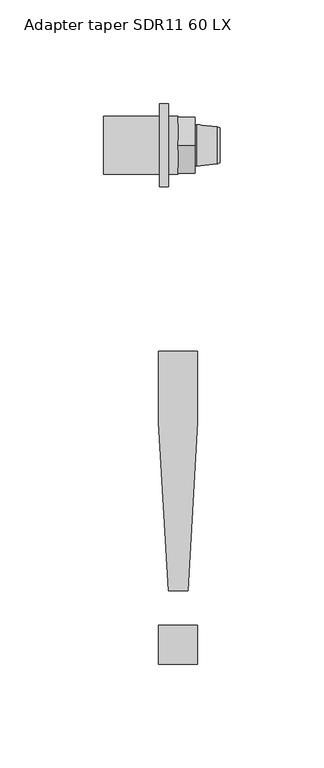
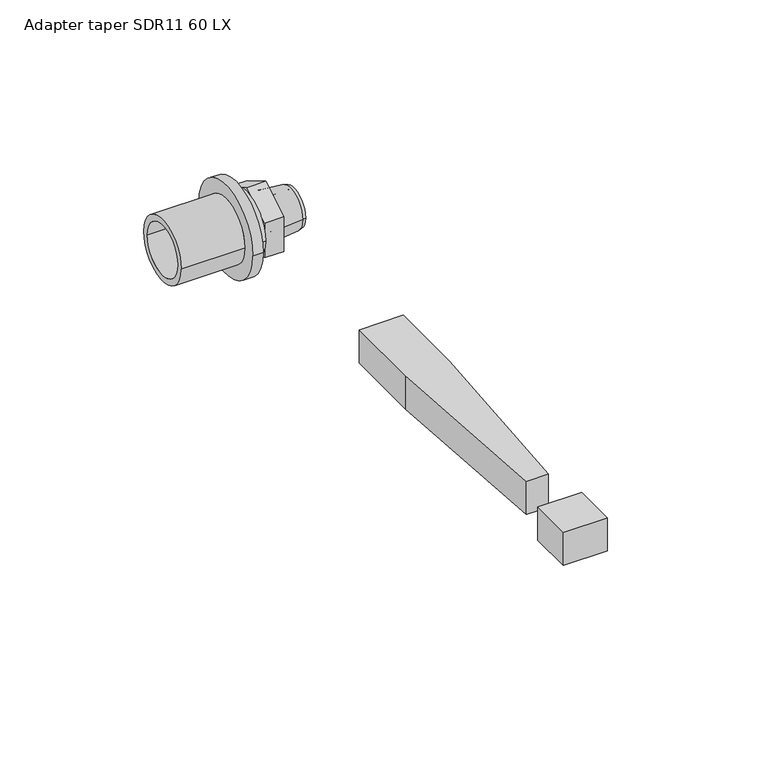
"""IFC4 building model written with IfcOpenShell, lengths in millimetres: pipe fitting geometry, Adapter taper SDR11 LX 60 Grad : Adapter taper SDR11 60 LX."""

from ifc_helpers import new_model, si_unit, frame, origin, origin_with_axes, place, context, project, spatial, polyline, circle_curve, outline, extrude, source, transform, mapped, element, save
from ifc_brep_helpers import plane_surface, cylinder_surface, revolved_surface, advanced_brep


def adapter_taper_sdr11_60_lx_09cdef62(model_context):
    return source(origin(), model_context, "Body", "SolidModel", [
        extrude(outline(polyline([(-4.7088895, -214.6833285), (-9.4177791, -133.3446193), (-9.4177791, -99.3155348), (9.4177791, -99.3155348), (9.4177791, -133.3446193), (4.7088895, -214.6833285), (-4.7088895, -214.6833285)])), origin_with_axes(), (0.0, 0.0, 1.0), 15.0),
        extrude(outline(polyline([(-9.4177791, -250.0), (-9.4177791, -231.1644418), (9.4177791, -231.1644418), (9.4177791, -250.0), (-9.4177791, -250.0)])), origin_with_axes(), (0.0, 0.0, 1.0), 15.0),
        advanced_brep(
        [(-8.9, 13.95, 0.0), (-8.9, -13.95, 0.0), (-35.9, -13.95, 0.0), (-35.9, 13.95, 0.0), (-4.5, 20.0, 0.0), (-4.5, -20.0, 0.0), (-8.9, -20.0, 0.0), (-8.9, 20.0, 0.0), (0.0, 13.95, 0.0), (0.0, -13.95, 0.0), (-4.5, -13.95, 0.0), (-4.5, 13.95, 0.0), (-35.9, 11.2, 0.0), (-35.9, -11.2, 0.0), (0.0, -11.2, 0.0), (0.0, 11.2, 0.0)],
        [
            (0, 1, circle_curve(frame((-8.9, 0.0, 0.0), z_axis=(-1.0, 0.0, 0.0), x_axis=(0.0, -1.0, 0.0)), 13.95)),
            (1, 2),
            (2, 3, circle_curve(frame((-35.9, 0.0, 0.0), z_axis=(1.0, 0.0, 0.0), x_axis=(0.0, -1.0, 0.0)), 13.95)),
            (3, 0),
            (4, 5, circle_curve(frame((-4.5, 0.0, 0.0), z_axis=(-1.0, 0.0, 0.0), x_axis=(0.0, -1.0, 0.0)), 20.0)),
            (5, 6),
            (6, 7, circle_curve(frame((-8.9, 0.0, 0.0), z_axis=(1.0, 0.0, 0.0), x_axis=(0.0, -1.0, 0.0)), 20.0)),
            (7, 4),
            (8, 9, circle_curve(frame((0.0, 0.0, 0.0), z_axis=(-1.0, 0.0, 0.0), x_axis=(0.0, -1.0, 0.0)), 13.95)),
            (9, 10),
            (10, 11, circle_curve(frame((-4.5, 0.0, 0.0), z_axis=(1.0, 0.0, 0.0), x_axis=(0.0, -1.0, 0.0)), 13.95)),
            (11, 8),
            (12, 13, circle_curve(frame((-35.9, 0.0, 0.0), z_axis=(-1.0, 0.0, 0.0), x_axis=(0.0, -1.0, 0.0)), 11.2)),
            (13, 14),
            (14, 15, circle_curve(frame((0.0, 0.0, 0.0), z_axis=(1.0, 0.0, 0.0), x_axis=(0.0, -1.0, 0.0)), 11.2)),
            (15, 12),
            (2, 3, circle_curve(frame((-35.9, 0.0, 0.0), z_axis=(-1.0, 0.0, 0.0), x_axis=(0.0, 1.0, 0.0)), 13.95)),
            (12, 13, circle_curve(frame((-35.9, 0.0, 0.0), z_axis=(1.0, 0.0, 0.0), x_axis=(0.0, 1.0, 0.0)), 11.2)),
            (1, 0, circle_curve(frame((-8.9, 0.0, 0.0), z_axis=(-1.0, 0.0, 0.0), x_axis=(0.0, 1.0, 0.0)), 13.95)),
            (6, 7, circle_curve(frame((-8.9, 0.0, 0.0), z_axis=(-1.0, 0.0, 0.0), x_axis=(0.0, 1.0, 0.0)), 20.0)),
            (5, 4, circle_curve(frame((-4.5, 0.0, 0.0), z_axis=(-1.0, 0.0, 0.0), x_axis=(0.0, 1.0, 0.0)), 20.0)),
            (10, 11, circle_curve(frame((-4.5, 0.0, 0.0), z_axis=(-1.0, 0.0, 0.0), x_axis=(0.0, 1.0, 0.0)), 13.95)),
            (9, 8, circle_curve(frame((0.0, 0.0, 0.0), z_axis=(-1.0, 0.0, 0.0), x_axis=(0.0, 1.0, 0.0)), 13.95)),
            (14, 15, circle_curve(frame((0.0, 0.0, 0.0), z_axis=(-1.0, 0.0, 0.0), x_axis=(0.0, 1.0, 0.0)), 11.2)),
        ],
        [
            cylinder_surface(frame((0.0, 0.0, 0.0), z_axis=(1.0, 0.0, 0.0), x_axis=(0.0, -1.0, 0.0)), 13.95),
            cylinder_surface(frame((0.0, 0.0, 0.0), z_axis=(1.0, 0.0, 0.0), x_axis=(0.0, -1.0, 0.0)), 20.0),
            revolved_surface(polyline([(0.0, -11.2, 0.0), (-35.9, -11.2, 0.0)]), (0.0, 0.0, 0.0), (1.0, 0.0, 0.0)),
            plane_surface(frame((-35.9, 0.0, 0.0), z_axis=(-1.0, 0.0, 0.0), x_axis=(0.0, 1.0, 0.0))),
            cylinder_surface(frame((0.0, 0.0, 0.0), z_axis=(1.0, 0.0, 0.0), x_axis=(0.0, 1.0, 0.0)), 13.95),
            plane_surface(frame((-8.9, 0.0, 0.0), z_axis=(-1.0, 0.0, 0.0), x_axis=(0.0, 1.0, 0.0))),
            cylinder_surface(frame((0.0, 0.0, 0.0), z_axis=(1.0, 0.0, 0.0), x_axis=(0.0, 1.0, 0.0)), 20.0),
            plane_surface(frame((-4.5, 0.0, 0.0), z_axis=(1.0, 0.0, 0.0), x_axis=(0.0, 1.0, 0.0))),
            plane_surface(frame((0.0, 0.0, 0.0), z_axis=(1.0, 0.0, 0.0), x_axis=(0.0, 1.0, 0.0))),
            revolved_surface(polyline([(0.0, 11.2, 0.0), (-35.9, 11.2, 0.0)]), (0.0, 0.0, 0.0), (1.0, 0.0, 0.0)),
        ],
        [
            (0, [[1, 2, 3, 4]]),
            (1, [[5, 6, 7, 8]]),
            (0, [[9, 10, 11, 12]]),
            (2, [[13, 14, 15, 16]]),
            (3, [[17, -3], [18, -13]]),
            (4, [[19, -4, -17, -2]]),
            (5, [[20, -7], [-19, -1]]),
            (6, [[21, -8, -20, -6]]),
            (7, [[-21, -5], [22, -11]]),
            (4, [[23, -12, -22, -10]]),
            (8, [[-23, -9], [24, -15]]),
            (9, [[-18, -16, -24, -14]]),
        ],
    ),
        advanced_brep(
        [(9.2032803, 6.5, 0.0), (9.2032803, -6.5, 0.0), (20.2, -6.5, 0.0), (20.2, 6.5, 0.0), (8.1, 5.3967197, 0.0), (8.1, -5.3967197, 0.0), (8.8406902, 10.0, 0.0), (8.8406902, -10.0, 0.0), (8.1, -9.5, 0.0), (8.1, 9.5, 0.0), (18.7000007, 9.0, 0.0), (18.7000007, -9.0, 0.0), (20.2, 8.5, 0.0), (20.2, -8.5, 0.0)],
        [
            (0, 1, circle_curve(frame((9.2032803, 0.0, 0.0), z_axis=(-1.0, 0.0, 0.0), x_axis=(0.0, -1.0, 0.0)), 6.5)),
            (1, 2),
            (2, 3, circle_curve(frame((20.2, 0.0, 0.0), z_axis=(1.0, 0.0, 0.0), x_axis=(0.0, -1.0, 0.0)), 6.5)),
            (3, 0),
            (4, 5, circle_curve(frame((8.1, 0.0, 0.0), z_axis=(-1.0, 0.0, 0.0), x_axis=(0.0, -1.0, 0.0)), 5.3967197)),
            (5, 1),
            (0, 4),
            (6, 7, circle_curve(frame((8.8406902, 0.0, 0.0), z_axis=(-1.0, 0.0, 0.0), x_axis=(0.0, -1.0, 0.0)), 10.0)),
            (7, 8),
            (8, 9, circle_curve(frame((8.1, 0.0, 0.0), z_axis=(1.0, 0.0, 0.0), x_axis=(0.0, -1.0, 0.0)), 9.5)),
            (9, 6),
            (10, 11, circle_curve(frame((18.7000007, 0.0, 0.0), z_axis=(-1.0, 0.0, 0.0), x_axis=(0.0, -1.0, 0.0)), 9.0)),
            (11, 7),
            (6, 10),
            (12, 13, circle_curve(frame((20.2, 0.0, 0.0), z_axis=(-1.0, 0.0, 0.0), x_axis=(0.0, -1.0, 0.0)), 8.5)),
            (13, 11),
            (10, 12),
            (1, 0, circle_curve(frame((9.2032803, 0.0, 0.0), z_axis=(-1.0, 0.0, 0.0), x_axis=(0.0, 1.0, 0.0)), 6.5)),
            (3, 2, circle_curve(frame((20.2, 0.0, 0.0), z_axis=(1.0, 0.0, 0.0), x_axis=(0.0, 1.0, 0.0)), 6.5)),
            (5, 4, circle_curve(frame((8.1, 0.0, 0.0), z_axis=(-1.0, 0.0, 0.0), x_axis=(0.0, 1.0, 0.0)), 5.3967197)),
            (8, 9, circle_curve(frame((8.1, 0.0, 0.0), z_axis=(-1.0, 0.0, 0.0), x_axis=(0.0, 1.0, 0.0)), 9.5)),
            (7, 6, circle_curve(frame((8.8406902, 0.0, 0.0), z_axis=(-1.0, 0.0, 0.0), x_axis=(0.0, 1.0, 0.0)), 10.0)),
            (11, 10, circle_curve(frame((18.7000007, 0.0, 0.0), z_axis=(-1.0, 0.0, 0.0), x_axis=(0.0, 1.0, 0.0)), 9.0)),
            (13, 12, circle_curve(frame((20.2, 0.0, 0.0), z_axis=(-1.0, 0.0, 0.0), x_axis=(0.0, 1.0, 0.0)), 8.5)),
        ],
        [
            revolved_surface(polyline([(20.2, -6.5, 0.0), (9.2032803, -6.5, 0.0)]), (0.0, 0.0, 0.0), (1.0, 0.0, 0.0)),
            revolved_surface(polyline([(9.2032803, -6.5, 0.0), (8.1, -5.3967197, 0.0)]), (0.0, 0.0, 0.0), (1.0, 0.0, 0.0)),
            revolved_surface(polyline([(8.1, -9.5, 0.0), (8.8406902, -10.0, 0.0)]), (0.0, 0.0, 0.0), (1.0, 0.0, 0.0)),
            revolved_surface(polyline([(8.8406902, -10.0, 0.0), (18.7000007, -9.0, 0.0)]), (0.0, 0.0, 0.0), (1.0, 0.0, 0.0)),
            revolved_surface(polyline([(18.7000007, -9.0, 0.0), (20.2, -8.5, 0.0)]), (0.0, 0.0, 0.0), (1.0, 0.0, 0.0)),
            revolved_surface(polyline([(20.2, 6.5, 0.0), (9.2032803, 6.5, 0.0)]), (0.0, 0.0, 0.0), (1.0, 0.0, 0.0)),
            revolved_surface(polyline([(9.2032803, 6.5, 0.0), (8.1, 5.3967197, 0.0)]), (0.0, 0.0, 0.0), (1.0, 0.0, 0.0)),
            plane_surface(frame((8.1, 0.0, 0.0), z_axis=(-1.0, 0.0, 0.0), x_axis=(0.0, 1.0, 0.0))),
            revolved_surface(polyline([(8.1, 9.5, 0.0), (8.8406902, 10.0, 0.0)]), (0.0, 0.0, 0.0), (1.0, 0.0, 0.0)),
            revolved_surface(polyline([(8.8406902, 10.0, 0.0), (18.7000007, 9.0, 0.0)]), (0.0, 0.0, 0.0), (1.0, 0.0, 0.0)),
            revolved_surface(polyline([(18.7000007, 9.0, 0.0), (20.2, 8.5, 0.0)]), (0.0, 0.0, 0.0), (1.0, 0.0, 0.0)),
            plane_surface(frame((20.2, 0.0, 0.0), z_axis=(1.0, 0.0, 0.0), x_axis=(0.0, 1.0, 0.0))),
        ],
        [
            (0, [[1, 2, 3, 4]]),
            (1, [[5, 6, -1, 7]]),
            (2, [[8, 9, 10, 11]]),
            (3, [[12, 13, -8, 14]]),
            (4, [[15, 16, -12, 17]]),
            (5, [[18, -4, 19, -2]]),
            (6, [[20, -7, -18, -6]]),
            (7, [[21, -10], [-20, -5]]),
            (8, [[22, -11, -21, -9]]),
            (9, [[23, -14, -22, -13]]),
            (10, [[24, -17, -23, -16]]),
            (11, [[-24, -15], [-19, -3]]),
        ],
    ),
        extrude(outline(polyline([(-13.5, 7.7942286), (0.0, 15.5884573), (13.5, 7.7942286), (13.5, -7.7942286), (0.0, -15.5884573), (-13.5, -7.7942286), (-13.5, 7.7942286)])), frame((0.0, 0.0, 0.0), z_axis=(1.0, 0.0, 0.0), x_axis=(0.0, 1.0, 0.0)), (0.0, 0.0, 1.0), 8.1),
    ])


if __name__ == "__main__":
    model = new_model("IFC4")
    model_context = context("Model", 3, world=origin())
    ifc_project = project(units=[si_unit("LENGTHUNIT", "METRE", prefix="MILLI")], contexts=[model_context])
    site = spatial("IfcSite", under=ifc_project)
    building = spatial("IfcBuilding", under=site)
    placement = place(None, origin())
    adapter_taper_sdr11_60_lx_shape = adapter_taper_sdr11_60_lx_09cdef62(model_context)
    element("IfcPipeFitting", 1, ObjectType="Adapter taper SDR11 LX 60 Grad : Adapter taper SDR11 60 LX", at=placement, inside=building, context=model_context, shape_type="MappedRepresentation", body=[
        mapped(adapter_taper_sdr11_60_lx_shape, transform((0.0, 0.0, 0.0), x_axis=(1.0, 0.0, 0.0), y_axis=(0.0, 1.0, 0.0), z_axis=(0.0, 0.0, 1.0))),
    ])
    save(model, "model.ifc")
